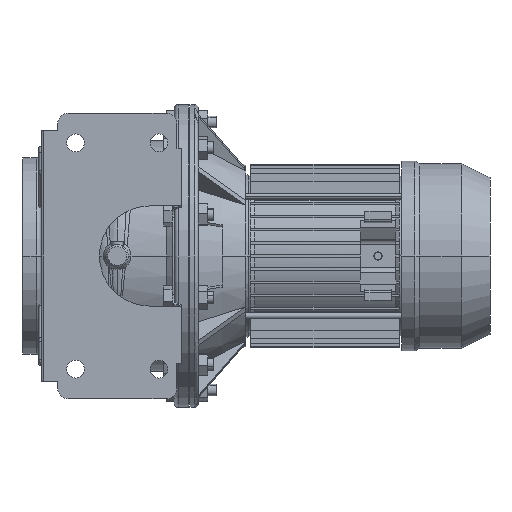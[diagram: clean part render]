
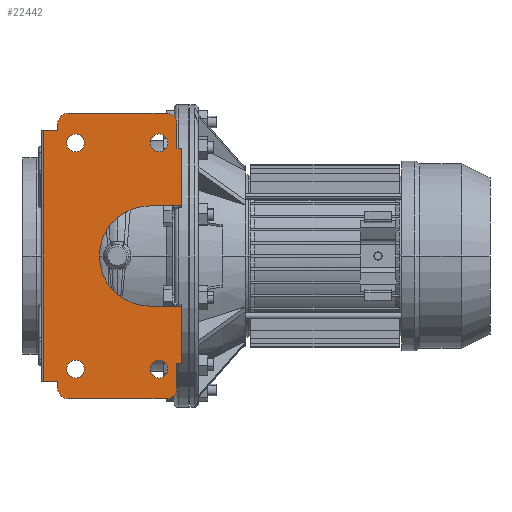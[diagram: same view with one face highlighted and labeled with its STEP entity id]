
A CAD part, front view. The second image highlights one B-rep face of the part: STEP entity #22442.
In plain terms, the highlighted planar face has unit normal (0, -1, 0).
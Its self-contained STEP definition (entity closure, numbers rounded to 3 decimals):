
#18743=CARTESIAN_POINT('',(35.,-132.,-95.));
#18744=DIRECTION('',(0.,-1.,0.));
#18745=DIRECTION('',(1.,0.,0.));
#18746=AXIS2_PLACEMENT_3D('',#18743,#18744,#18745);
#18751=CARTESIAN_POINT('',(35.,-132.,-95.));
#18752=DIRECTION('',(0.,-1.,0.));
#18753=DIRECTION('',(-1.,0.,0.));
#18754=AXIS2_PLACEMENT_3D('',#18751,#18752,#18753);
#18759=CARTESIAN_POINT('',(-35.,-132.,-95.));
#18760=DIRECTION('',(0.,-1.,0.));
#18761=DIRECTION('',(1.,0.,0.));
#18762=AXIS2_PLACEMENT_3D('',#18759,#18760,#18761);
#18767=CARTESIAN_POINT('',(-35.,-132.,-95.));
#18768=DIRECTION('',(0.,-1.,0.));
#18769=DIRECTION('',(-1.,0.,0.));
#18770=AXIS2_PLACEMENT_3D('',#18767,#18768,#18769);
#18775=CARTESIAN_POINT('',(35.,-132.,95.));
#18776=DIRECTION('',(0.,-1.,0.));
#18777=DIRECTION('',(1.,0.,0.));
#18778=AXIS2_PLACEMENT_3D('',#18775,#18776,#18777);
#18783=CARTESIAN_POINT('',(35.,-132.,95.));
#18784=DIRECTION('',(0.,-1.,0.));
#18785=DIRECTION('',(-1.,0.,0.));
#18786=AXIS2_PLACEMENT_3D('',#18783,#18784,#18785);
#18791=CARTESIAN_POINT('',(-35.,-132.,95.));
#18792=DIRECTION('',(0.,-1.,0.));
#18793=DIRECTION('',(1.,0.,0.));
#18794=AXIS2_PLACEMENT_3D('',#18791,#18792,#18793);
#18799=CARTESIAN_POINT('',(-35.,-132.,95.));
#18800=DIRECTION('',(0.,-1.,0.));
#18801=DIRECTION('',(-1.,0.,0.));
#18802=AXIS2_PLACEMENT_3D('',#18799,#18800,#18801);
#18807=DIRECTION('',(0.,0.,-1.));
#18808=VECTOR('',#18807,21.);
#18809=CARTESIAN_POINT('',(50.,-132.,-90.));
#18810=LINE('',#18809,#18808);
#18814=CARTESIAN_POINT('',(41.,-132.,-111.));
#18815=DIRECTION('',(0.,-1.,0.));
#18816=DIRECTION('',(0.,0.,-1.));
#18817=AXIS2_PLACEMENT_3D('',#18814,#18815,#18816);
#18822=DIRECTION('',(-1.,0.,0.));
#18823=VECTOR('',#18822,82.);
#18824=CARTESIAN_POINT('',(41.,-132.,-120.));
#18825=LINE('',#18824,#18823);
#18829=CARTESIAN_POINT('',(-41.,-132.,-111.));
#18830=DIRECTION('',(0.,-1.,0.));
#18831=DIRECTION('',(-1.,0.,0.));
#18832=AXIS2_PLACEMENT_3D('',#18829,#18830,#18831);
#18837=DIRECTION('',(0.,0.,1.));
#18838=VECTOR('',#18837,6.);
#18839=CARTESIAN_POINT('',(-50.,-132.,-111.));
#18840=LINE('',#18839,#18838);
#18844=DIRECTION('',(-1.,0.,0.));
#18845=VECTOR('',#18844,12.);
#18846=CARTESIAN_POINT('',(-50.,-132.,-105.));
#18847=LINE('',#18846,#18845);
#18851=DIRECTION('',(1.,0.,0.));
#18852=VECTOR('',#18851,12.);
#18853=CARTESIAN_POINT('',(-62.,-132.,105.));
#18854=LINE('',#18853,#18852);
#18858=DIRECTION('',(0.,0.,1.));
#18859=VECTOR('',#18858,6.);
#18860=CARTESIAN_POINT('',(-50.,-132.,105.));
#18861=LINE('',#18860,#18859);
#18865=CARTESIAN_POINT('',(-41.,-132.,111.));
#18866=DIRECTION('',(0.,-1.,0.));
#18867=DIRECTION('',(0.,0.,1.));
#18868=AXIS2_PLACEMENT_3D('',#18865,#18866,#18867);
#18873=DIRECTION('',(1.,0.,0.));
#18874=VECTOR('',#18873,82.);
#18875=CARTESIAN_POINT('',(-41.,-132.,120.));
#18876=LINE('',#18875,#18874);
#18880=CARTESIAN_POINT('',(41.,-132.,111.));
#18881=DIRECTION('',(0.,-1.,0.));
#18882=DIRECTION('',(1.,0.,0.));
#18883=AXIS2_PLACEMENT_3D('',#18880,#18881,#18882);
#18888=DIRECTION('',(0.,0.,-1.));
#18889=VECTOR('',#18888,21.);
#18890=CARTESIAN_POINT('',(50.,-132.,111.));
#18891=LINE('',#18890,#18889);
#18895=CARTESIAN_POINT('',(27.,-132.,0.));
#18896=DIRECTION('',(0.,-1.,0.));
#18897=DIRECTION('',(0.,0.,1.));
#18898=AXIS2_PLACEMENT_3D('',#18895,#18896,#18897);
#19009=DIRECTION('',(0.,0.,1.));
#19010=VECTOR('',#19009,210.);
#19011=CARTESIAN_POINT('',(-62.,-132.,-105.));
#19012=LINE('',#19011,#19010);
#19059=DIRECTION('',(-1.,0.,0.));
#19060=VECTOR('',#19059,4.);
#19061=CARTESIAN_POINT('',(54.,-132.,90.));
#19062=LINE('',#19061,#19060);
#19161=DIRECTION('',(1.,0.,0.));
#19162=VECTOR('',#19161,27.);
#19163=CARTESIAN_POINT('',(27.,-132.,42.));
#19164=LINE('',#19163,#19162);
#19198=DIRECTION('',(-1.,0.,0.));
#19199=VECTOR('',#19198,27.);
#19200=CARTESIAN_POINT('',(54.,-132.,-42.));
#19201=LINE('',#19200,#19199);
#20148=DIRECTION('',(1.,0.,0.));
#20149=VECTOR('',#20148,4.);
#20150=CARTESIAN_POINT('',(50.,-132.,-90.));
#20151=LINE('',#20150,#20149);
#20169=DIRECTION('',(0.,0.,1.));
#20170=VECTOR('',#20169,48.);
#20171=CARTESIAN_POINT('',(54.,-132.,42.));
#20172=LINE('',#20171,#20170);
#20220=DIRECTION('',(0.,0.,1.));
#20221=VECTOR('',#20220,48.);
#20222=CARTESIAN_POINT('',(54.,-132.,-90.));
#20223=LINE('',#20222,#20221);
#21234=CARTESIAN_POINT('',(54.,-132.,42.));
#21236=VERTEX_POINT('',#21234);
#21237=CARTESIAN_POINT('',(54.,-132.,90.));
#21238=VERTEX_POINT('',#21237);
#21247=CARTESIAN_POINT('',(54.,-132.,-90.));
#21248=VERTEX_POINT('',#21247);
#21249=CARTESIAN_POINT('',(54.,-132.,-42.));
#21250=VERTEX_POINT('',#21249);
#21499=CARTESIAN_POINT('',(-27.5,-132.,95.));
#21500=CARTESIAN_POINT('',(-42.5,-132.,95.));
#21501=VERTEX_POINT('',#21499);
#21502=VERTEX_POINT('',#21500);
#21503=CARTESIAN_POINT('',(42.5,-132.,95.));
#21504=CARTESIAN_POINT('',(27.5,-132.,95.));
#21505=VERTEX_POINT('',#21503);
#21506=VERTEX_POINT('',#21504);
#21507=CARTESIAN_POINT('',(-27.5,-132.,-95.));
#21508=CARTESIAN_POINT('',(-42.5,-132.,-95.));
#21509=VERTEX_POINT('',#21507);
#21510=VERTEX_POINT('',#21508);
#21511=CARTESIAN_POINT('',(42.5,-132.,-95.));
#21512=CARTESIAN_POINT('',(27.5,-132.,-95.));
#21513=VERTEX_POINT('',#21511);
#21514=VERTEX_POINT('',#21512);
#21515=CARTESIAN_POINT('',(27.,-132.,42.));
#21516=CARTESIAN_POINT('',(27.,-132.,-42.));
#21517=VERTEX_POINT('',#21515);
#21518=VERTEX_POINT('',#21516);
#21535=CARTESIAN_POINT('',(50.,-132.,-90.));
#21537=VERTEX_POINT('',#21535);
#21539=CARTESIAN_POINT('',(-50.,-132.,-105.));
#21541=VERTEX_POINT('',#21539);
#21543=CARTESIAN_POINT('',(-50.,-132.,105.));
#21545=VERTEX_POINT('',#21543);
#21547=CARTESIAN_POINT('',(50.,-132.,90.));
#21549=VERTEX_POINT('',#21547);
#21551=CARTESIAN_POINT('',(-62.,-132.,-105.));
#21552=VERTEX_POINT('',#21551);
#21553=CARTESIAN_POINT('',(-62.,-132.,105.));
#21554=VERTEX_POINT('',#21553);
#21564=CARTESIAN_POINT('',(-50.,-132.,111.));
#21566=VERTEX_POINT('',#21564);
#21569=CARTESIAN_POINT('',(-41.,-132.,120.));
#21570=VERTEX_POINT('',#21569);
#21572=CARTESIAN_POINT('',(41.,-132.,120.));
#21574=VERTEX_POINT('',#21572);
#21577=CARTESIAN_POINT('',(50.,-132.,111.));
#21578=VERTEX_POINT('',#21577);
#21580=CARTESIAN_POINT('',(50.,-132.,-111.));
#21582=VERTEX_POINT('',#21580);
#21585=CARTESIAN_POINT('',(41.,-132.,-120.));
#21586=VERTEX_POINT('',#21585);
#21588=CARTESIAN_POINT('',(-41.,-132.,-120.));
#21590=VERTEX_POINT('',#21588);
#21593=CARTESIAN_POINT('',(-50.,-132.,-111.));
#21594=VERTEX_POINT('',#21593);
#22372=CARTESIAN_POINT('',(54.,-132.,42.));
#22373=DIRECTION('',(0.,1.,0.));
#22374=DIRECTION('',(0.,0.,1.));
#22375=AXIS2_PLACEMENT_3D('',#22372,#22373,#22374);
#22376=PLANE('',#22375);
#22378=ORIENTED_EDGE('',*,*,#22377,.T.);
#22380=ORIENTED_EDGE('',*,*,#22379,.F.);
#22382=ORIENTED_EDGE('',*,*,#22381,.T.);
#22384=ORIENTED_EDGE('',*,*,#22383,.F.);
#22386=ORIENTED_EDGE('',*,*,#22385,.T.);
#22388=ORIENTED_EDGE('',*,*,#22387,.T.);
#22390=ORIENTED_EDGE('',*,*,#22389,.T.);
#22392=ORIENTED_EDGE('',*,*,#22391,.T.);
#22394=ORIENTED_EDGE('',*,*,#22393,.T.);
#22396=ORIENTED_EDGE('',*,*,#22395,.F.);
#22398=ORIENTED_EDGE('',*,*,#22397,.T.);
#22400=ORIENTED_EDGE('',*,*,#22399,.F.);
#22402=ORIENTED_EDGE('',*,*,#22401,.T.);
#22404=ORIENTED_EDGE('',*,*,#22403,.F.);
#22406=ORIENTED_EDGE('',*,*,#22405,.F.);
#22408=ORIENTED_EDGE('',*,*,#22407,.F.);
#22410=ORIENTED_EDGE('',*,*,#22409,.T.);
#22412=ORIENTED_EDGE('',*,*,#22411,.F.);
#22414=ORIENTED_EDGE('',*,*,#22413,.F.);
#22416=ORIENTED_EDGE('',*,*,#22415,.F.);
#22417=EDGE_LOOP('',(#22378,#22380,#22382,#22384,#22386,#22388,#22390,#22392,
#22394,#22396,#22398,#22400,#22402,#22404,#22406,#22408,#22410,#22412,#22414,
#22416));
#22418=FACE_OUTER_BOUND('',#22417,.F.);
#22420=ORIENTED_EDGE('',*,*,#22419,.T.);
#22422=ORIENTED_EDGE('',*,*,#22421,.T.);
#22423=EDGE_LOOP('',(#22420,#22422));
#22424=FACE_BOUND('',#22423,.F.);
#22426=ORIENTED_EDGE('',*,*,#22425,.T.);
#22428=ORIENTED_EDGE('',*,*,#22427,.T.);
#22429=EDGE_LOOP('',(#22426,#22428));
#22430=FACE_BOUND('',#22429,.F.);
#22431=ORIENTED_EDGE('',*,*,#22362,.T.);
#22433=ORIENTED_EDGE('',*,*,#22432,.T.);
#22434=EDGE_LOOP('',(#22431,#22433));
#22435=FACE_BOUND('',#22434,.F.);
#22437=ORIENTED_EDGE('',*,*,#22436,.T.);
#22439=ORIENTED_EDGE('',*,*,#22438,.T.);
#22440=EDGE_LOOP('',(#22437,#22439));
#22441=FACE_BOUND('',#22440,.F.);
#18747=CIRCLE('',#18746,7.5);
#18755=CIRCLE('',#18754,7.5);
#18763=CIRCLE('',#18762,7.5);
#18771=CIRCLE('',#18770,7.5);
#18779=CIRCLE('',#18778,7.5);
#18787=CIRCLE('',#18786,7.5);
#18795=CIRCLE('',#18794,7.5);
#18803=CIRCLE('',#18802,7.5);
#18818=CIRCLE('',#18817,9.);
#18833=CIRCLE('',#18832,9.);
#18869=CIRCLE('',#18868,9.);
#18884=CIRCLE('',#18883,9.);
#18899=CIRCLE('',#18898,42.);
#22362=EDGE_CURVE('',#21501,#21502,#18795,.T.);
#22377=EDGE_CURVE('',#21537,#21582,#18810,.T.);
#22379=EDGE_CURVE('',#21586,#21582,#18818,.T.);
#22381=EDGE_CURVE('',#21586,#21590,#18825,.T.);
#22383=EDGE_CURVE('',#21594,#21590,#18833,.T.);
#22385=EDGE_CURVE('',#21594,#21541,#18840,.T.);
#22387=EDGE_CURVE('',#21541,#21552,#18847,.T.);
#22389=EDGE_CURVE('',#21552,#21554,#19012,.T.);
#22391=EDGE_CURVE('',#21554,#21545,#18854,.T.);
#22393=EDGE_CURVE('',#21545,#21566,#18861,.T.);
#22395=EDGE_CURVE('',#21570,#21566,#18869,.T.);
#22397=EDGE_CURVE('',#21570,#21574,#18876,.T.);
#22399=EDGE_CURVE('',#21578,#21574,#18884,.T.);
#22401=EDGE_CURVE('',#21578,#21549,#18891,.T.);
#22403=EDGE_CURVE('',#21238,#21549,#19062,.T.);
#22405=EDGE_CURVE('',#21236,#21238,#20172,.T.);
#22407=EDGE_CURVE('',#21517,#21236,#19164,.T.);
#22409=EDGE_CURVE('',#21517,#21518,#18899,.T.);
#22411=EDGE_CURVE('',#21250,#21518,#19201,.T.);
#22413=EDGE_CURVE('',#21248,#21250,#20223,.T.);
#22415=EDGE_CURVE('',#21537,#21248,#20151,.T.);
#22419=EDGE_CURVE('',#21509,#21510,#18763,.T.);
#22421=EDGE_CURVE('',#21510,#21509,#18771,.T.);
#22425=EDGE_CURVE('',#21505,#21506,#18779,.T.);
#22427=EDGE_CURVE('',#21506,#21505,#18787,.T.);
#22432=EDGE_CURVE('',#21502,#21501,#18803,.T.);
#22436=EDGE_CURVE('',#21513,#21514,#18747,.T.);
#22438=EDGE_CURVE('',#21514,#21513,#18755,.T.);
#22442=ADVANCED_FACE('',(#22418,#22424,#22430,#22435,#22441),#22376,.F.);
